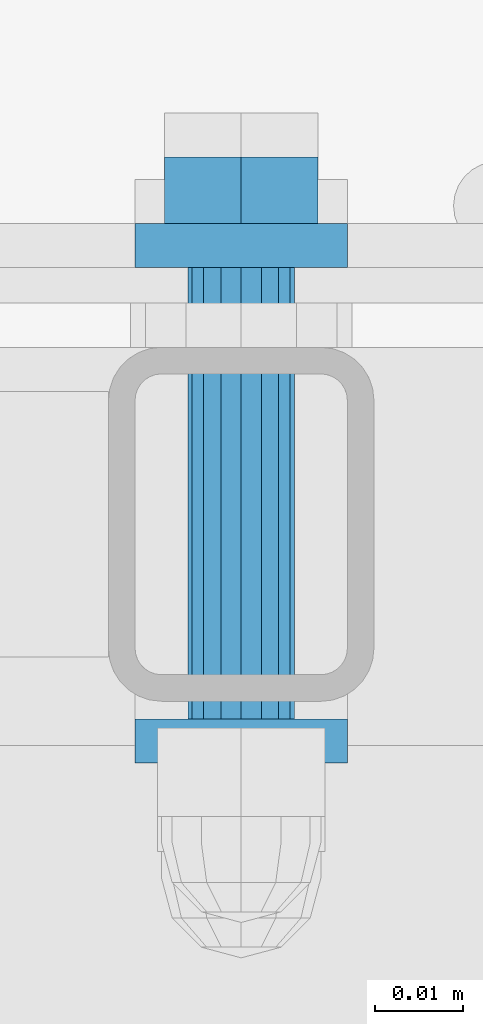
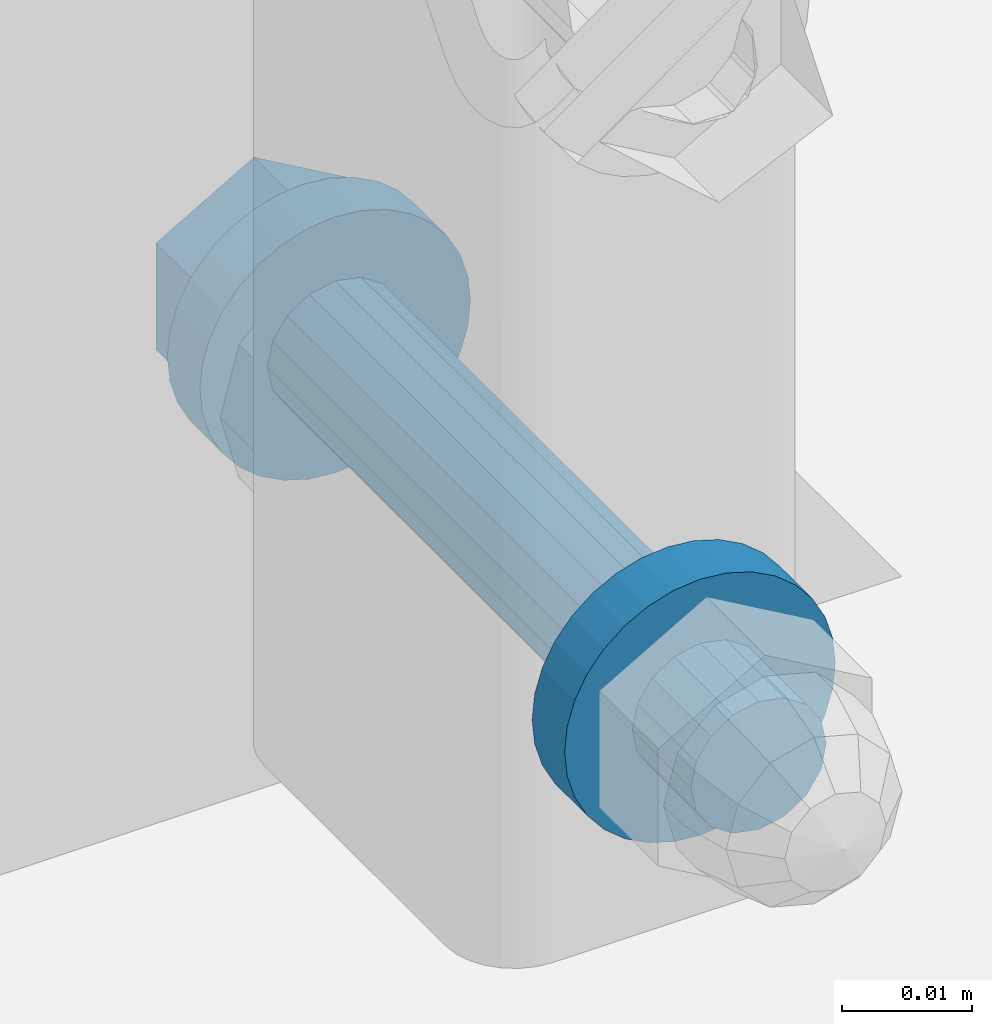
# One storey, part 74 of 116: 1 mechanical fastener.
"""IFC2X3 building model written with IfcOpenShell, lengths in millimetres."""

from ifc_helpers import new_model, entity, si_unit, converted_unit, origin_with_axes, place, context, project, spatial, faceted_brep, element, save


model = new_model("IFC2X3")

# Units and contexts
model_context = context("Model", 3, precision=1e-09, world=origin_with_axes())
ifc_project = project(units=[si_unit("LENGTHUNIT", "METRE", prefix="MILLI"), si_unit("AREAUNIT", "SQUARE_METRE"), si_unit("VOLUMEUNIT", "CUBIC_METRE"), converted_unit("PLANEANGLEUNIT", "DEGREE", entity("IfcPlaneAngleMeasure", 0.01745329), si_unit("PLANEANGLEUNIT", "RADIAN"), dimensions=[0, 0, 0, 0, 0, 0, 0])], contexts=[model_context])

# Site, building, storey
site_placement = place(None, origin_with_axes())
site = spatial("IfcSite", under=ifc_project, at=site_placement, Name="Site", CompositionType="ELEMENT")
building_placement = place(site_placement, origin_with_axes())
building = spatial("IfcBuilding", under=site, at=building_placement, Name="Struktur 1", CompositionType="ELEMENT")
storey_placement = place(building_placement, origin_with_axes())
storey = spatial("IfcBuildingStorey", under=building, at=storey_placement, Name="Default Storey", CompositionType="ELEMENT", Elevation=0.0)

# Mechanical fastener
mechanical_fastener_placement = place(None, origin_with_axes())
element("IfcMechanicalFastener", 1, at=mechanical_fastener_placement, inside=storey, ObjectType="-", NominalDiameter=12.0, NominalLength=70.0, context=model_context, shape_type="Brep", body=[
    faceted_brep([(60565.049134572, 9076.358883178, -1368.0), (60565.049134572, 9078.858883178, -1368.0), (60565.279711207, 9078.858883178, -1370.341083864), (60565.279711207, 9076.358883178, -1370.341083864), (60565.962580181, 9078.858883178, -1372.592201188), (60565.962580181, 9076.358883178, -1372.592201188), (60567.071499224, 9078.858883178, -1374.666842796), (60567.071499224, 9076.358883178, -1374.666842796), (60568.563853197, 9078.858883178, -1376.485281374), (60568.563853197, 9076.358883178, -1376.485281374), (60570.382291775, 9078.858883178, -1377.977635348), (60570.382291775, 9076.358883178, -1377.977635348), (60572.456933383, 9078.858883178, -1379.08655439), (60572.456933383, 9076.358883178, -1379.08655439), (60574.708050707, 9078.858883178, -1379.769423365), (60574.708050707, 9076.358883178, -1379.769423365), (60577.049134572, 9078.858883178, -1380.0), (60577.049134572, 9076.358883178, -1380.0), (60579.390218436, 9078.858883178, -1379.769423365), (60579.390218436, 9076.358883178, -1379.769423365), (60581.64133576, 9078.858883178, -1379.08655439), (60581.64133576, 9076.358883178, -1379.08655439), (60583.715977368, 9078.858883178, -1377.977635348), (60583.715977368, 9076.358883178, -1377.977635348), (60585.534415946, 9078.858883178, -1376.485281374), (60585.534415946, 9076.358883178, -1376.485281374), (60587.026769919, 9078.858883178, -1374.666842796), (60587.026769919, 9076.358883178, -1374.666842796), (60588.135688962, 9078.858883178, -1372.592201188), (60588.135688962, 9076.358883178, -1372.592201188), (60588.818557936, 9078.858883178, -1370.341083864), (60588.818557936, 9076.358883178, -1370.341083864), (60589.049134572, 9078.858883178, -1368.0), (60589.049134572, 9076.358883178, -1368.0), (60588.818557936, 9078.858883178, -1365.658916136), (60588.818557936, 9076.358883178, -1365.658916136), (60588.135688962, 9078.858883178, -1363.407798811), (60588.135688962, 9076.358883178, -1363.407798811), (60587.026769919, 9078.858883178, -1361.333157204), (60587.026769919, 9076.358883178, -1361.333157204), (60585.534415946, 9078.858883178, -1359.514718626), (60585.534415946, 9076.358883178, -1359.514718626), (60583.715977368, 9078.858883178, -1358.022364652), (60583.715977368, 9076.358883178, -1358.022364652), (60581.64133576, 9078.858883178, -1356.91344561), (60581.64133576, 9076.358883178, -1356.91344561), (60579.390218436, 9078.858883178, -1356.230576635), (60579.390218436, 9076.358883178, -1356.230576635), (60577.049134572, 9078.858883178, -1356.0), (60577.049134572, 9076.358883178, -1356.0), (60574.708050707, 9078.858883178, -1356.230576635), (60574.708050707, 9076.358883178, -1356.230576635), (60572.456933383, 9078.858883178, -1356.91344561), (60572.456933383, 9076.358883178, -1356.91344561), (60570.382291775, 9078.858883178, -1358.022364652), (60570.382291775, 9076.358883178, -1358.022364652), (60568.563853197, 9078.858883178, -1359.514718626), (60568.563853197, 9076.358883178, -1359.514718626), (60567.071499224, 9078.858883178, -1361.333157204), (60567.071499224, 9076.358883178, -1361.333157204), (60565.962580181, 9078.858883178, -1363.407798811), (60565.962580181, 9076.358883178, -1363.407798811), (60565.279711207, 9078.858883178, -1365.658916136), (60565.279711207, 9076.358883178, -1365.658916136)], [[[0, 1, 2, 3]], [[3, 2, 4, 5]], [[5, 4, 6, 7]], [[7, 6, 8, 9]], [[9, 8, 10, 11]], [[11, 10, 12, 13]], [[13, 12, 14, 15]], [[15, 14, 16, 17]], [[17, 16, 18, 19]], [[19, 18, 20, 21]], [[21, 20, 22, 23]], [[23, 22, 24, 25]], [[25, 24, 26, 27]], [[27, 26, 28, 29]], [[29, 28, 30, 31]], [[31, 30, 32, 33]], [[33, 32, 34, 35]], [[35, 34, 36, 37]], [[37, 36, 38, 39]], [[39, 38, 40, 41]], [[41, 40, 42, 43]], [[43, 42, 44, 45]], [[45, 44, 46, 47]], [[47, 46, 48, 49]], [[49, 48, 50, 51]], [[51, 50, 52, 53]], [[53, 52, 54, 55]], [[55, 54, 56, 57]], [[57, 56, 58, 59]], [[59, 58, 60, 61]], [[61, 60, 62, 63]], [[63, 62, 1, 0]], [[2, 1, 62, 60, 58, 56, 54, 52, 50, 48, 46, 44, 42, 40, 38, 36, 34, 32, 30, 28, 26, 24, 22, 20, 18, 16, 14, 12, 10, 8, 6, 4]], [[63, 0, 3, 5, 7, 9, 11, 13, 15, 17, 19, 21, 23, 25, 27, 29, 31, 33, 35, 37, 39, 41, 43, 45, 47, 49, 51, 53, 55, 57, 59, 61]]]),
    faceted_brep([(60565.049134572, 9078.858883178, -1368.0), (60565.049134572, 9081.358883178, -1368.0), (60565.279711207, 9081.358883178, -1370.341083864), (60565.279711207, 9078.858883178, -1370.341083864), (60565.962580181, 9081.358883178, -1372.592201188), (60565.962580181, 9078.858883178, -1372.592201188), (60567.071499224, 9081.358883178, -1374.666842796), (60567.071499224, 9078.858883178, -1374.666842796), (60568.563853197, 9081.358883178, -1376.485281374), (60568.563853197, 9078.858883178, -1376.485281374), (60570.382291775, 9081.358883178, -1377.977635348), (60570.382291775, 9078.858883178, -1377.977635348), (60572.456933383, 9081.358883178, -1379.08655439), (60572.456933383, 9078.858883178, -1379.08655439), (60574.708050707, 9081.358883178, -1379.769423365), (60574.708050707, 9078.858883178, -1379.769423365), (60577.049134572, 9081.358883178, -1380.0), (60577.049134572, 9078.858883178, -1380.0), (60579.390218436, 9081.358883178, -1379.769423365), (60579.390218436, 9078.858883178, -1379.769423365), (60581.64133576, 9081.358883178, -1379.08655439), (60581.64133576, 9078.858883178, -1379.08655439), (60583.715977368, 9081.358883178, -1377.977635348), (60583.715977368, 9078.858883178, -1377.977635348), (60585.534415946, 9081.358883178, -1376.485281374), (60585.534415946, 9078.858883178, -1376.485281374), (60587.026769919, 9081.358883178, -1374.666842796), (60587.026769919, 9078.858883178, -1374.666842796), (60588.135688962, 9081.358883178, -1372.592201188), (60588.135688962, 9078.858883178, -1372.592201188), (60588.818557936, 9081.358883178, -1370.341083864), (60588.818557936, 9078.858883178, -1370.341083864), (60589.049134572, 9081.358883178, -1368.0), (60589.049134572, 9078.858883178, -1368.0), (60588.818557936, 9081.358883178, -1365.658916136), (60588.818557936, 9078.858883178, -1365.658916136), (60588.135688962, 9081.358883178, -1363.407798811), (60588.135688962, 9078.858883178, -1363.407798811), (60587.026769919, 9081.358883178, -1361.333157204), (60587.026769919, 9078.858883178, -1361.333157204), (60585.534415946, 9081.358883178, -1359.514718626), (60585.534415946, 9078.858883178, -1359.514718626), (60583.715977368, 9081.358883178, -1358.022364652), (60583.715977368, 9078.858883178, -1358.022364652), (60581.64133576, 9081.358883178, -1356.91344561), (60581.64133576, 9078.858883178, -1356.91344561), (60579.390218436, 9081.358883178, -1356.230576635), (60579.390218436, 9078.858883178, -1356.230576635), (60577.049134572, 9081.358883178, -1356.0), (60577.049134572, 9078.858883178, -1356.0), (60574.708050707, 9081.358883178, -1356.230576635), (60574.708050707, 9078.858883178, -1356.230576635), (60572.456933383, 9081.358883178, -1356.91344561), (60572.456933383, 9078.858883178, -1356.91344561), (60570.382291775, 9081.358883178, -1358.022364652), (60570.382291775, 9078.858883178, -1358.022364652), (60568.563853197, 9081.358883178, -1359.514718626), (60568.563853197, 9078.858883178, -1359.514718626), (60567.071499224, 9081.358883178, -1361.333157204), (60567.071499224, 9078.858883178, -1361.333157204), (60565.962580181, 9081.358883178, -1363.407798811), (60565.962580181, 9078.858883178, -1363.407798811), (60565.279711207, 9081.358883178, -1365.658916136), (60565.279711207, 9078.858883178, -1365.658916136)], [[[0, 1, 2, 3]], [[3, 2, 4, 5]], [[5, 4, 6, 7]], [[7, 6, 8, 9]], [[9, 8, 10, 11]], [[11, 10, 12, 13]], [[13, 12, 14, 15]], [[15, 14, 16, 17]], [[17, 16, 18, 19]], [[19, 18, 20, 21]], [[21, 20, 22, 23]], [[23, 22, 24, 25]], [[25, 24, 26, 27]], [[27, 26, 28, 29]], [[29, 28, 30, 31]], [[31, 30, 32, 33]], [[33, 32, 34, 35]], [[35, 34, 36, 37]], [[37, 36, 38, 39]], [[39, 38, 40, 41]], [[41, 40, 42, 43]], [[43, 42, 44, 45]], [[45, 44, 46, 47]], [[47, 46, 48, 49]], [[49, 48, 50, 51]], [[51, 50, 52, 53]], [[53, 52, 54, 55]], [[55, 54, 56, 57]], [[57, 56, 58, 59]], [[59, 58, 60, 61]], [[61, 60, 62, 63]], [[63, 62, 1, 0]], [[2, 1, 62, 60, 58, 56, 54, 52, 50, 48, 46, 44, 42, 40, 38, 36, 34, 32, 30, 28, 26, 24, 22, 20, 18, 16, 14, 12, 10, 8, 6, 4]], [[63, 0, 3, 5, 7, 9, 11, 13, 15, 17, 19, 21, 23, 25, 27, 29, 31, 33, 35, 37, 39, 41, 43, 45, 47, 49, 51, 53, 55, 57, 59, 61]]]),
    faceted_brep([(60585.722378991, 9088.858883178, -1373.0075), (60585.722378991, 9081.358883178, -1373.0075), (60577.049134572, 9081.358883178, -1378.015), (60577.049134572, 9088.858883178, -1378.015), (60568.375890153, 9081.358883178, -1373.0075), (60568.375890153, 9088.858883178, -1373.0075), (60568.375890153, 9081.358883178, -1362.9925), (60568.375890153, 9088.858883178, -1362.9925), (60577.049134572, 9081.358883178, -1357.985), (60577.049134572, 9088.858883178, -1357.985), (60585.722378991, 9081.358883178, -1362.9925), (60585.722378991, 9088.858883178, -1362.9925)], [[[0, 1, 2, 3]], [[3, 2, 4, 5]], [[5, 4, 6, 7]], [[7, 6, 8, 9]], [[9, 8, 10, 11]], [[11, 10, 1, 0]], [[3, 5, 7, 9, 11, 0]], [[2, 1, 10, 8, 6, 4]]]),
    faceted_brep([(60571.049134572, 9025.359883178, -1368.0), (60571.049134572, 9076.358883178, -1368.0), (60571.505857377, 9076.358883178, -1370.296100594), (60571.505857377, 9025.359883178, -1370.296100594), (60572.806493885, 9076.358883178, -1372.242640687), (60572.806493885, 9025.359883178, -1372.242640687), (60574.753033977, 9076.358883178, -1373.543277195), (60574.753033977, 9025.359883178, -1373.543277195), (60577.049134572, 9076.358883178, -1374.0), (60577.049134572, 9025.359883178, -1374.0), (60579.345235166, 9076.358883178, -1373.543277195), (60579.345235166, 9025.359883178, -1373.543277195), (60581.291775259, 9076.358883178, -1372.242640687), (60581.291775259, 9025.359883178, -1372.242640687), (60582.592411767, 9076.358883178, -1370.296100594), (60582.592411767, 9025.359883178, -1370.296100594), (60583.049134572, 9076.358883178, -1368.0), (60583.049134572, 9025.359883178, -1368.0), (60582.592411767, 9076.358883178, -1365.703899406), (60582.592411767, 9025.359883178, -1365.703899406), (60581.291775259, 9076.358883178, -1363.757359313), (60581.291775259, 9025.359883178, -1363.757359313), (60579.345235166, 9076.358883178, -1362.456722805), (60579.345235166, 9025.359883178, -1362.456722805), (60577.049134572, 9076.358883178, -1362.0), (60577.049134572, 9025.359883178, -1362.0), (60574.753033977, 9076.358883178, -1362.456722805), (60574.753033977, 9025.359883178, -1362.456722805), (60572.806493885, 9076.358883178, -1363.757359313), (60572.806493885, 9025.359883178, -1363.757359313), (60571.505857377, 9076.358883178, -1365.703899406), (60571.505857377, 9025.359883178, -1365.703899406)], [[[0, 1, 2, 3]], [[3, 2, 4, 5]], [[5, 4, 6, 7]], [[7, 6, 8, 9]], [[9, 8, 10, 11]], [[11, 10, 12, 13]], [[13, 12, 14, 15]], [[15, 14, 16, 17]], [[17, 16, 18, 19]], [[19, 18, 20, 21]], [[21, 20, 22, 23]], [[23, 22, 24, 25]], [[25, 24, 26, 27]], [[27, 26, 28, 29]], [[29, 28, 30, 31]], [[31, 30, 1, 0]], [[2, 1, 30, 28, 26, 24, 22, 20, 18, 16, 14, 12, 10, 8, 6, 4]], [[31, 0, 3, 5, 7, 9, 11, 13, 15, 17, 19, 21, 23, 25, 27, 29]]]),
    faceted_brep([(60565.049134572, 9022.859883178, -1368.0), (60565.049134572, 9025.359883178, -1368.0), (60565.279711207, 9025.359883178, -1370.341083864), (60565.279711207, 9022.859883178, -1370.341083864), (60565.962580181, 9025.359883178, -1372.592201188), (60565.962580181, 9022.859883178, -1372.592201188), (60567.071499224, 9025.359883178, -1374.666842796), (60567.071499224, 9022.859883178, -1374.666842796), (60568.563853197, 9025.359883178, -1376.485281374), (60568.563853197, 9022.859883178, -1376.485281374), (60570.382291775, 9025.359883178, -1377.977635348), (60570.382291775, 9022.859883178, -1377.977635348), (60572.456933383, 9025.359883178, -1379.08655439), (60572.456933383, 9022.859883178, -1379.08655439), (60574.708050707, 9025.359883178, -1379.769423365), (60574.708050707, 9022.859883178, -1379.769423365), (60577.049134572, 9025.359883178, -1380.0), (60577.049134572, 9022.859883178, -1380.0), (60579.390218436, 9025.359883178, -1379.769423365), (60579.390218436, 9022.859883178, -1379.769423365), (60581.64133576, 9025.359883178, -1379.08655439), (60581.64133576, 9022.859883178, -1379.08655439), (60583.715977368, 9025.359883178, -1377.977635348), (60583.715977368, 9022.859883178, -1377.977635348), (60585.534415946, 9025.359883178, -1376.485281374), (60585.534415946, 9022.859883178, -1376.485281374), (60587.026769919, 9025.359883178, -1374.666842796), (60587.026769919, 9022.859883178, -1374.666842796), (60588.135688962, 9025.359883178, -1372.592201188), (60588.135688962, 9022.859883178, -1372.592201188), (60588.818557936, 9025.359883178, -1370.341083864), (60588.818557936, 9022.859883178, -1370.341083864), (60589.049134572, 9025.359883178, -1368.0), (60589.049134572, 9022.859883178, -1368.0), (60588.818557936, 9025.359883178, -1365.658916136), (60588.818557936, 9022.859883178, -1365.658916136), (60588.135688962, 9025.359883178, -1363.407798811), (60588.135688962, 9022.859883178, -1363.407798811), (60587.026769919, 9025.359883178, -1361.333157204), (60587.026769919, 9022.859883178, -1361.333157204), (60585.534415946, 9025.359883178, -1359.514718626), (60585.534415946, 9022.859883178, -1359.514718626), (60583.715977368, 9025.359883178, -1358.022364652), (60583.715977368, 9022.859883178, -1358.022364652), (60581.64133576, 9025.359883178, -1356.91344561), (60581.64133576, 9022.859883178, -1356.91344561), (60579.390218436, 9025.359883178, -1356.230576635), (60579.390218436, 9022.859883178, -1356.230576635), (60577.049134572, 9025.359883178, -1356.0), (60577.049134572, 9022.859883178, -1356.0), (60574.708050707, 9025.359883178, -1356.230576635), (60574.708050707, 9022.859883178, -1356.230576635), (60572.456933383, 9025.359883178, -1356.91344561), (60572.456933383, 9022.859883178, -1356.91344561), (60570.382291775, 9025.359883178, -1358.022364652), (60570.382291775, 9022.859883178, -1358.022364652), (60568.563853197, 9025.359883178, -1359.514718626), (60568.563853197, 9022.859883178, -1359.514718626), (60567.071499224, 9025.359883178, -1361.333157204), (60567.071499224, 9022.859883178, -1361.333157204), (60565.962580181, 9025.359883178, -1363.407798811), (60565.962580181, 9022.859883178, -1363.407798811), (60565.279711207, 9025.359883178, -1365.658916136), (60565.279711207, 9022.859883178, -1365.658916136)], [[[0, 1, 2, 3]], [[3, 2, 4, 5]], [[5, 4, 6, 7]], [[7, 6, 8, 9]], [[9, 8, 10, 11]], [[11, 10, 12, 13]], [[13, 12, 14, 15]], [[15, 14, 16, 17]], [[17, 16, 18, 19]], [[19, 18, 20, 21]], [[21, 20, 22, 23]], [[23, 22, 24, 25]], [[25, 24, 26, 27]], [[27, 26, 28, 29]], [[29, 28, 30, 31]], [[31, 30, 32, 33]], [[33, 32, 34, 35]], [[35, 34, 36, 37]], [[37, 36, 38, 39]], [[39, 38, 40, 41]], [[41, 40, 42, 43]], [[43, 42, 44, 45]], [[45, 44, 46, 47]], [[47, 46, 48, 49]], [[49, 48, 50, 51]], [[51, 50, 52, 53]], [[53, 52, 54, 55]], [[55, 54, 56, 57]], [[57, 56, 58, 59]], [[59, 58, 60, 61]], [[61, 60, 62, 63]], [[63, 62, 1, 0]], [[2, 1, 62, 60, 58, 56, 54, 52, 50, 48, 46, 44, 42, 40, 38, 36, 34, 32, 30, 28, 26, 24, 22, 20, 18, 16, 14, 12, 10, 8, 6, 4]], [[63, 0, 3, 5, 7, 9, 11, 13, 15, 17, 19, 21, 23, 25, 27, 29, 31, 33, 35, 37, 39, 41, 43, 45, 47, 49, 51, 53, 55, 57, 59, 61]]]),
    faceted_brep([(60565.049134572, 9020.359883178, -1368.0), (60565.049134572, 9022.859883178, -1368.0), (60565.279711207, 9022.859883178, -1370.341083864), (60565.279711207, 9020.359883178, -1370.341083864), (60565.962580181, 9022.859883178, -1372.592201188), (60565.962580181, 9020.359883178, -1372.592201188), (60567.071499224, 9022.859883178, -1374.666842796), (60567.071499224, 9020.359883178, -1374.666842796), (60568.563853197, 9022.859883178, -1376.485281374), (60568.563853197, 9020.359883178, -1376.485281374), (60570.382291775, 9022.859883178, -1377.977635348), (60570.382291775, 9020.359883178, -1377.977635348), (60572.456933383, 9022.859883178, -1379.08655439), (60572.456933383, 9020.359883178, -1379.08655439), (60574.708050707, 9022.859883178, -1379.769423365), (60574.708050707, 9020.359883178, -1379.769423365), (60577.049134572, 9022.859883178, -1380.0), (60577.049134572, 9020.359883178, -1380.0), (60579.390218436, 9022.859883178, -1379.769423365), (60579.390218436, 9020.359883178, -1379.769423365), (60581.64133576, 9022.859883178, -1379.08655439), (60581.64133576, 9020.359883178, -1379.08655439), (60583.715977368, 9022.859883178, -1377.977635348), (60583.715977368, 9020.359883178, -1377.977635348), (60585.534415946, 9022.859883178, -1376.485281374), (60585.534415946, 9020.359883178, -1376.485281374), (60587.026769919, 9022.859883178, -1374.666842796), (60587.026769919, 9020.359883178, -1374.666842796), (60588.135688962, 9022.859883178, -1372.592201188), (60588.135688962, 9020.359883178, -1372.592201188), (60588.818557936, 9022.859883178, -1370.341083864), (60588.818557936, 9020.359883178, -1370.341083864), (60589.049134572, 9022.859883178, -1368.0), (60589.049134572, 9020.359883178, -1368.0), (60588.818557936, 9022.859883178, -1365.658916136), (60588.818557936, 9020.359883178, -1365.658916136), (60588.135688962, 9022.859883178, -1363.407798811), (60588.135688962, 9020.359883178, -1363.407798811), (60587.026769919, 9022.859883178, -1361.333157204), (60587.026769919, 9020.359883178, -1361.333157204), (60585.534415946, 9022.859883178, -1359.514718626), (60585.534415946, 9020.359883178, -1359.514718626), (60583.715977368, 9022.859883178, -1358.022364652), (60583.715977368, 9020.359883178, -1358.022364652), (60581.64133576, 9022.859883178, -1356.91344561), (60581.64133576, 9020.359883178, -1356.91344561), (60579.390218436, 9022.859883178, -1356.230576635), (60579.390218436, 9020.359883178, -1356.230576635), (60577.049134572, 9022.859883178, -1356.0), (60577.049134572, 9020.359883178, -1356.0), (60574.708050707, 9022.859883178, -1356.230576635), (60574.708050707, 9020.359883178, -1356.230576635), (60572.456933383, 9022.859883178, -1356.91344561), (60572.456933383, 9020.359883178, -1356.91344561), (60570.382291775, 9022.859883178, -1358.022364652), (60570.382291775, 9020.359883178, -1358.022364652), (60568.563853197, 9022.859883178, -1359.514718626), (60568.563853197, 9020.359883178, -1359.514718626), (60567.071499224, 9022.859883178, -1361.333157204), (60567.071499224, 9020.359883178, -1361.333157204), (60565.962580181, 9022.859883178, -1363.407798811), (60565.962580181, 9020.359883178, -1363.407798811), (60565.279711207, 9022.859883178, -1365.658916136), (60565.279711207, 9020.359883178, -1365.658916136)], [[[0, 1, 2, 3]], [[3, 2, 4, 5]], [[5, 4, 6, 7]], [[7, 6, 8, 9]], [[9, 8, 10, 11]], [[11, 10, 12, 13]], [[13, 12, 14, 15]], [[15, 14, 16, 17]], [[17, 16, 18, 19]], [[19, 18, 20, 21]], [[21, 20, 22, 23]], [[23, 22, 24, 25]], [[25, 24, 26, 27]], [[27, 26, 28, 29]], [[29, 28, 30, 31]], [[31, 30, 32, 33]], [[33, 32, 34, 35]], [[35, 34, 36, 37]], [[37, 36, 38, 39]], [[39, 38, 40, 41]], [[41, 40, 42, 43]], [[43, 42, 44, 45]], [[45, 44, 46, 47]], [[47, 46, 48, 49]], [[49, 48, 50, 51]], [[51, 50, 52, 53]], [[53, 52, 54, 55]], [[55, 54, 56, 57]], [[57, 56, 58, 59]], [[59, 58, 60, 61]], [[61, 60, 62, 63]], [[63, 62, 1, 0]], [[2, 1, 62, 60, 58, 56, 54, 52, 50, 48, 46, 44, 42, 40, 38, 36, 34, 32, 30, 28, 26, 24, 22, 20, 18, 16, 14, 12, 10, 8, 6, 4]], [[63, 0, 3, 5, 7, 9, 11, 13, 15, 17, 19, 21, 23, 25, 27, 29, 31, 33, 35, 37, 39, 41, 43, 45, 47, 49, 51, 53, 55, 57, 59, 61]]]),
    faceted_brep([(60571.049134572, 9011.358883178, -1368.0), (60571.049134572, 9020.359883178, -1368.0), (60571.505857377, 9020.359883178, -1370.296100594), (60571.505857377, 9011.358883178, -1370.296100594), (60572.806493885, 9020.359883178, -1372.242640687), (60572.806493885, 9011.358883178, -1372.242640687), (60574.753033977, 9020.359883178, -1373.543277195), (60574.753033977, 9011.358883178, -1373.543277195), (60577.049134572, 9020.359883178, -1374.0), (60577.049134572, 9011.358883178, -1374.0), (60579.345235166, 9020.359883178, -1373.543277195), (60579.345235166, 9011.358883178, -1373.543277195), (60581.291775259, 9020.359883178, -1372.242640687), (60581.291775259, 9011.358883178, -1372.242640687), (60582.592411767, 9020.359883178, -1370.296100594), (60582.592411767, 9011.358883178, -1370.296100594), (60583.049134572, 9020.359883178, -1368.0), (60583.049134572, 9011.358883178, -1368.0), (60582.592411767, 9020.359883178, -1365.703899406), (60582.592411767, 9011.358883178, -1365.703899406), (60581.291775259, 9020.359883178, -1363.757359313), (60581.291775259, 9011.358883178, -1363.757359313), (60579.345235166, 9020.359883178, -1362.456722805), (60579.345235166, 9011.358883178, -1362.456722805), (60577.049134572, 9020.359883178, -1362.0), (60577.049134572, 9011.358883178, -1362.0), (60574.753033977, 9020.359883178, -1362.456722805), (60574.753033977, 9011.358883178, -1362.456722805), (60572.806493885, 9020.359883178, -1363.757359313), (60572.806493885, 9011.358883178, -1363.757359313), (60571.505857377, 9020.359883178, -1365.703899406), (60571.505857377, 9011.358883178, -1365.703899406)], [[[0, 1, 2, 3]], [[3, 2, 4, 5]], [[5, 4, 6, 7]], [[7, 6, 8, 9]], [[9, 8, 10, 11]], [[11, 10, 12, 13]], [[13, 12, 14, 15]], [[15, 14, 16, 17]], [[17, 16, 18, 19]], [[19, 18, 20, 21]], [[21, 20, 22, 23]], [[23, 22, 24, 25]], [[25, 24, 26, 27]], [[27, 26, 28, 29]], [[29, 28, 30, 31]], [[31, 30, 1, 0]], [[2, 1, 30, 28, 26, 24, 22, 20, 18, 16, 14, 12, 10, 8, 6, 4]], [[31, 0, 3, 5, 7, 9, 11, 13, 15, 17, 19, 21, 23, 25, 27, 29]]]),
])

save(model, "model.ifc")
